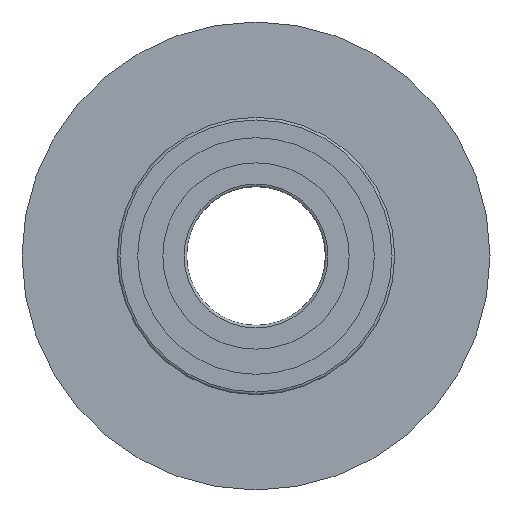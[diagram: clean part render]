
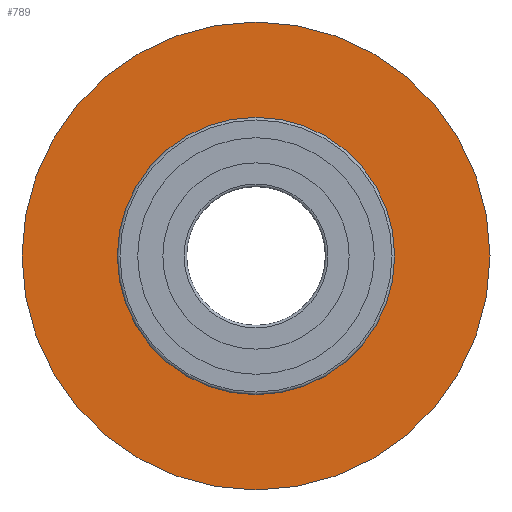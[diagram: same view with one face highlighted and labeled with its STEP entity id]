
A CAD part, left-side view. The second image highlights one B-rep face of the part: STEP entity #789.
In plain terms, the highlighted planar face has unit normal (-1, 0, 0).
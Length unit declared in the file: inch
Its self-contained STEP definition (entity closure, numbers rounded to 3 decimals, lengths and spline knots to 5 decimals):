
#762=CARTESIAN_POINT('',(112.91139,125.97152,0.));
#763=VERTEX_POINT('',#762);
#764=CARTESIAN_POINT('',(112.91139,112.47152,0.));
#765=DIRECTION('',(1.,0.,0.));
#766=DIRECTION('',(0.,1.,0.));
#767=AXIS2_PLACEMENT_3D('',#764,#765,#766);
#768=CIRCLE('',#767,13.5);
#769=EDGE_CURVE('',#763,#763,#768,.T.);
#770=ORIENTED_EDGE('',*,*,#769,.F.);
#771=EDGE_LOOP('',(#770));
#772=FACE_OUTER_BOUND('',#771,.T.);
#773=CARTESIAN_POINT('',(112.91139,120.47152,0.));
#774=VERTEX_POINT('',#773);
#775=CARTESIAN_POINT('',(112.91139,112.47152,0.));
#776=DIRECTION('',(1.,0.,0.));
#777=DIRECTION('',(0.,1.,0.));
#778=AXIS2_PLACEMENT_3D('',#775,#776,#777);
#779=CIRCLE('',#778,8.);
#780=EDGE_CURVE('',#774,#774,#779,.T.);
#781=ORIENTED_EDGE('',*,*,#780,.T.);
#782=EDGE_LOOP('',(#781));
#783=FACE_BOUND('',#782,.T.);
#784=CARTESIAN_POINT('',(112.91139,123.22152,0.));
#785=DIRECTION('',(-1.,0.,0.));
#786=DIRECTION('',(0.,-1.,0.));
#787=AXIS2_PLACEMENT_3D('',#784,#785,#786);
#788=PLANE('',#787);
#789=ADVANCED_FACE('',(#772,#783),#788,.T.);
